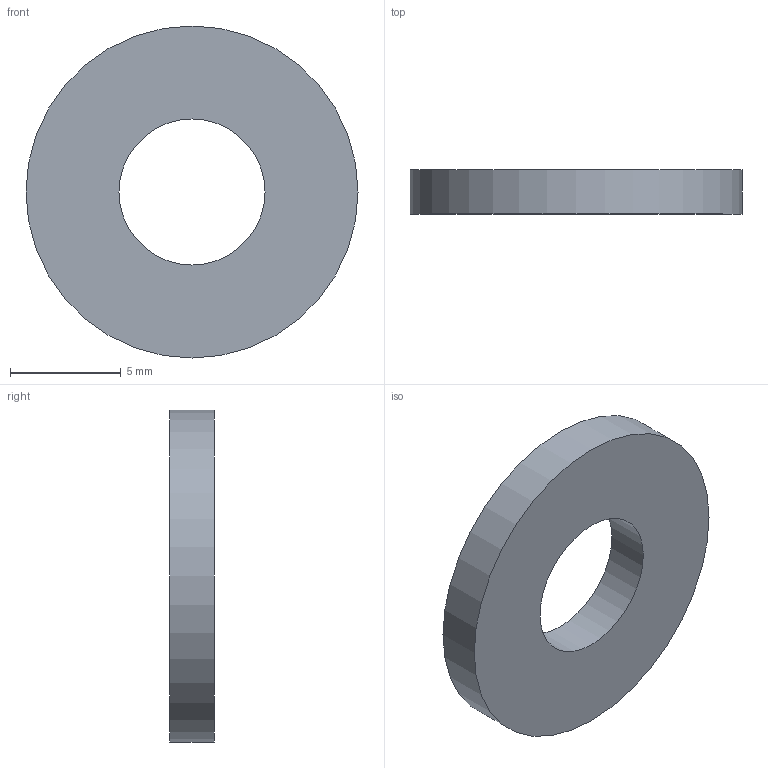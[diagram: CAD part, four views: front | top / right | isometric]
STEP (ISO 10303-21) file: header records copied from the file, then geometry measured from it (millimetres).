
FILE_DESCRIPTION(/* description */ (''),/* implementation_level */ '2;1');
FILE_NAME(/* name */ '',/* time_stamp */ '2024-09-02T11:26:41+09:00',/* author */ ('jhkim'),/* organization */ (''),/* preprocessor_version */ 'ST-DEVELOPER v20',/* originating_system */ 'Autodesk Inventor 2025',/* authorisation */ '');
FILE_SCHEMA (('AUTOMOTIVE_DESIGN { 1 0 10303 214 3 1 1 }'));
Length unit declared in the file: millimetre
Products named in the file (1): 실링 패드
Bounding box: 15 x 2 x 15 mm (x, y, z)
Volume: 285 mm3; surface area: 420.7 mm2
Topology: 1 solids, 1 shells, 4 faces, 6 edges, 4 vertices
Faces by surface type: cylinder 2, plane 2
Full cylindrical faces by diameter (mm): 6.6 x1, 15 x1
Entity records: 141 total; most frequent: DIRECTION 20, CARTESIAN_POINT 15, ORIENTED_EDGE 12, AXIS2_PLACEMENT_3D 9, EDGE_LOOP 6, EDGE_CURVE 6, FACE_OUTER_BOUND 4, CIRCLE 4
